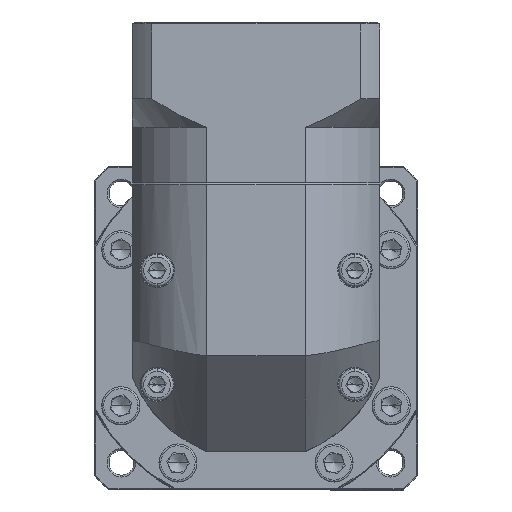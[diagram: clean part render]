
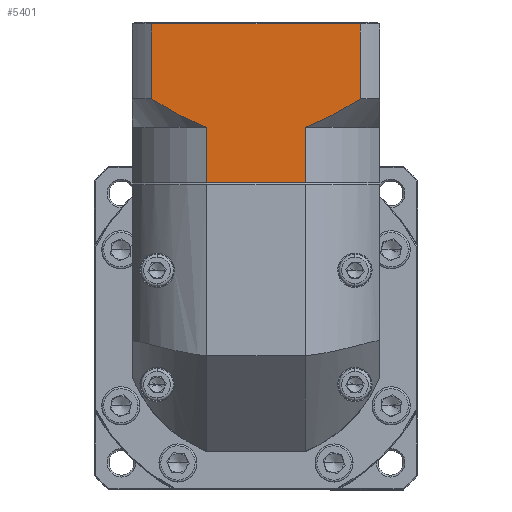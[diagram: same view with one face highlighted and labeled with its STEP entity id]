
A CAD part, top view. The second image highlights one B-rep face of the part: STEP entity #5401.
In plain terms, the highlighted planar face has unit normal (0, 0, 1).
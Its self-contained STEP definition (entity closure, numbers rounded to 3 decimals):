
#938 = VERTEX_POINT ( 'NONE', #48484 ) ;
#1992 = AXIS2_PLACEMENT_3D ( 'NONE', #105856, #117197, #31365 ) ;
#3931 = DIRECTION ( 'NONE',  ( 0., -1., 0. ) ) ;
#4559 = CARTESIAN_POINT ( 'NONE',  ( -29.307, 100.188, 22.63 ) ) ;
#4606 = ORIENTED_EDGE ( 'NONE', *, *, #76506, .F. ) ;
#5260 = EDGE_CURVE ( 'NONE', #110801, #110960, #102015, .T. ) ;
#5401 = ADVANCED_FACE ( 'NONE', ( #105736 ), #39403, .F. ) ;
#7377 = CARTESIAN_POINT ( 'NONE',  ( -63.873, 104.185, 22.63 ) ) ;
#12850 = VECTOR ( 'NONE', #58690, 1000. ) ;
#14652 = VECTOR ( 'NONE', #3931, 1000. ) ;
#15402 = CARTESIAN_POINT ( 'NONE',  ( -26.14, 101.478, 22.63 ) ) ;
#17340 = CARTESIAN_POINT ( 'NONE',  ( -65.059, 104.855, 22.63 ) ) ;
#19134 = CARTESIAN_POINT ( 'NONE',  ( -14.911, 107.688, 22.63 ) ) ;
#19221 = B_SPLINE_CURVE_WITH_KNOTS ( 'NONE', 3,
 ( #38559, #104523, #136715, #17340, #7377, #28209, #104059, #72470 ),
 .UNSPECIFIED., .F., .F.,
 ( 4, 2, 2, 4 ),
 ( 0.058, 0.062, 0.066, 0.074 ),
 .UNSPECIFIED. ) ;
#23794 = VECTOR ( 'NONE', #54428, 1000. ) ;
#26201 = ORIENTED_EDGE ( 'NONE', *, *, #101471, .F. ) ;
#27316 = VERTEX_POINT ( 'NONE', #94721 ) ;
#28209 = CARTESIAN_POINT ( 'NONE',  ( -60.277, 102.275, 22.63 ) ) ;
#29044 = LINE ( 'NONE', #98967, #130281 ) ;
#31365 = DIRECTION ( 'NONE',  ( 0., 1., 0. ) ) ;
#36490 = CARTESIAN_POINT ( 'NONE',  ( -29.307, 100.188, 22.63 ) ) ;
#37122 = CARTESIAN_POINT ( 'NONE',  ( -23.074, 102.934, 22.63 ) ) ;
#37300 = EDGE_CURVE ( 'NONE', #57516, #938, #64254, .T. ) ;
#37574 = CARTESIAN_POINT ( 'NONE',  ( -14.911, 107.688, 22.63 ) ) ;
#38042 = CARTESIAN_POINT ( 'NONE',  ( -19.493, 104.839, 22.63 ) ) ;
#38559 = CARTESIAN_POINT ( 'NONE',  ( -69.683, 107.688, 22.63 ) ) ;
#39403 = PLANE ( 'NONE',  #1992 ) ;
#39420 = ORIENTED_EDGE ( 'NONE', *, *, #5260, .T. ) ;
#40666 = DIRECTION ( 'NONE',  ( 0., -1., 0. ) ) ;
#42551 = EDGE_CURVE ( 'NONE', #27316, #81947, #29044, .T. ) ;
#48484 = CARTESIAN_POINT ( 'NONE',  ( -69.683, 127.388, 22.63 ) ) ;
#51019 = VECTOR ( 'NONE', #40666, 1000. ) ;
#51445 = EDGE_CURVE ( 'NONE', #91084, #110960, #68017, .T. ) ;
#54428 = DIRECTION ( 'NONE',  ( 0., 1., 0. ) ) ;
#55789 = EDGE_CURVE ( 'NONE', #91084, #938, #139406, .T. ) ;
#57516 = VERTEX_POINT ( 'NONE', #139311 ) ;
#58256 = CARTESIAN_POINT ( 'NONE',  ( -28.026, 100.679, 22.63 ) ) ;
#58690 = DIRECTION ( 'NONE',  ( -1., 0., 0. ) ) ;
#58738 = CARTESIAN_POINT ( 'NONE',  ( -28.665, 100.426, 22.63 ) ) ;
#64254 = LINE ( 'NONE', #75224, #23794 ) ;
#65494 = DIRECTION ( 'NONE',  ( 1., 0., 0. ) ) ;
#68017 = LINE ( 'NONE', #125187, #51019 ) ;
#70435 = VECTOR ( 'NONE', #119068, 1000. ) ;
#72470 = CARTESIAN_POINT ( 'NONE',  ( -55.287, 100.188, 22.63 ) ) ;
#73809 = LINE ( 'NONE', #97382, #70435 ) ;
#75224 = CARTESIAN_POINT ( 'NONE',  ( -69.683, 100.188, 22.63 ) ) ;
#75781 = ORIENTED_EDGE ( 'NONE', *, *, #55789, .T. ) ;
#76506 = EDGE_CURVE ( 'NONE', #110801, #81947, #83808, .T. ) ;
#78539 = CARTESIAN_POINT ( 'NONE',  ( -74.797, 127.388, 22.63 ) ) ;
#79035 = ORIENTED_EDGE ( 'NONE', *, *, #139756, .T. ) ;
#81947 = VERTEX_POINT ( 'NONE', #129877 ) ;
#83808 = LINE ( 'NONE', #36490, #14652 ) ;
#86526 = VERTEX_POINT ( 'NONE', #91582 ) ;
#88560 = CARTESIAN_POINT ( 'NONE',  ( -14.911, 127.388, 22.63 ) ) ;
#90883 = CARTESIAN_POINT ( 'NONE',  ( -24.286, 102.329, 22.63 ) ) ;
#91084 = VERTEX_POINT ( 'NONE', #88560 ) ;
#91582 = CARTESIAN_POINT ( 'NONE',  ( -55.287, 100.188, 22.63 ) ) ;
#91815 = CARTESIAN_POINT ( 'NONE',  ( -26.764, 101.205, 22.63 ) ) ;
#92729 = CARTESIAN_POINT ( 'NONE',  ( -29.307, 100.188, 22.63 ) ) ;
#94721 = CARTESIAN_POINT ( 'NONE',  ( -55.287, 85.688, 22.63 ) ) ;
#95962 = EDGE_LOOP ( 'NONE', ( #109597, #75781, #111321, #79035, #26201, #137443, #4606, #39420 ) ) ;
#97382 = CARTESIAN_POINT ( 'NONE',  ( -55.287, 100.188, 22.63 ) ) ;
#98967 = CARTESIAN_POINT ( 'NONE',  ( -74.797, 85.688, 22.63 ) ) ;
#101471 = EDGE_CURVE ( 'NONE', #27316, #86526, #73809, .T. ) ;
#102015 = B_SPLINE_CURVE_WITH_KNOTS ( 'NONE', 3,
 ( #4559, #58738, #58256, #91815, #15402, #90883, #37122, #38042, #102115, #37574 ),
 .UNSPECIFIED., .F., .F.,
 ( 4, 2, 2, 2, 4 ),
 ( 0.101, 0.103, 0.105, 0.109, 0.117 ),
 .UNSPECIFIED. ) ;
#102115 = CARTESIAN_POINT ( 'NONE',  ( -17.179, 106.226, 22.63 ) ) ;
#104059 = CARTESIAN_POINT ( 'NONE',  ( -57.825, 101.13, 22.63 ) ) ;
#104523 = CARTESIAN_POINT ( 'NONE',  ( -68.545, 106.955, 22.63 ) ) ;
#105736 = FACE_OUTER_BOUND ( 'NONE', #95962, .T. ) ;
#105856 = CARTESIAN_POINT ( 'NONE',  ( -74.797, 127.888, 22.63 ) ) ;
#109597 = ORIENTED_EDGE ( 'NONE', *, *, #51445, .F. ) ;
#110801 = VERTEX_POINT ( 'NONE', #92729 ) ;
#110960 = VERTEX_POINT ( 'NONE', #19134 ) ;
#111321 = ORIENTED_EDGE ( 'NONE', *, *, #37300, .F. ) ;
#117197 = DIRECTION ( 'NONE',  ( 0., 0., -1. ) ) ;
#119068 = DIRECTION ( 'NONE',  ( 0., 1., 0. ) ) ;
#125187 = CARTESIAN_POINT ( 'NONE',  ( -14.911, 100.188, 22.63 ) ) ;
#129877 = CARTESIAN_POINT ( 'NONE',  ( -29.307, 85.688, 22.63 ) ) ;
#130281 = VECTOR ( 'NONE', #65494, 1000. ) ;
#136715 = CARTESIAN_POINT ( 'NONE',  ( -67.394, 106.239, 22.63 ) ) ;
#137443 = ORIENTED_EDGE ( 'NONE', *, *, #42551, .T. ) ;
#139311 = CARTESIAN_POINT ( 'NONE',  ( -69.683, 107.688, 22.63 ) ) ;
#139406 = LINE ( 'NONE', #78539, #12850 ) ;
#139756 = EDGE_CURVE ( 'NONE', #57516, #86526, #19221, .T. ) ;
